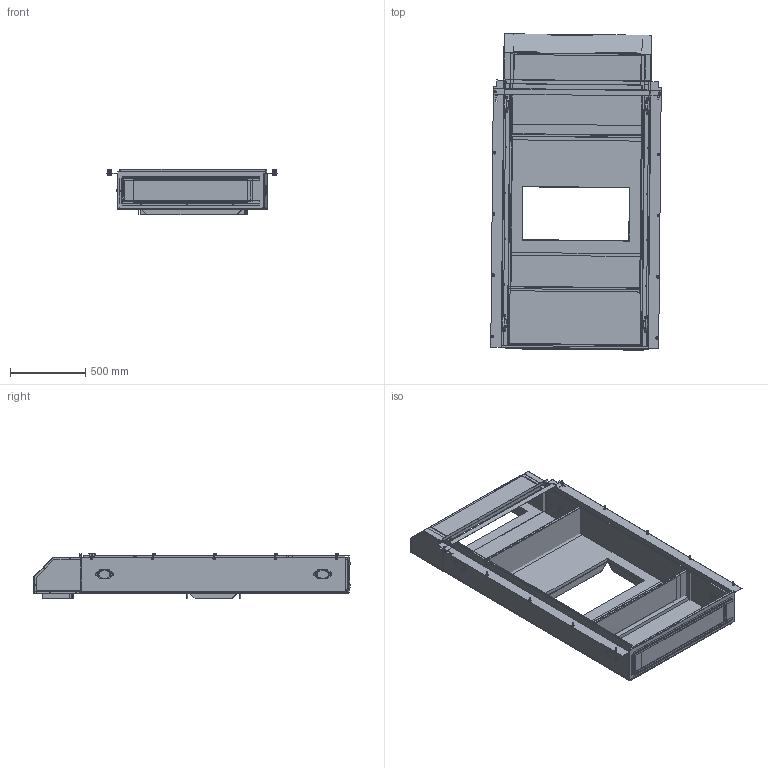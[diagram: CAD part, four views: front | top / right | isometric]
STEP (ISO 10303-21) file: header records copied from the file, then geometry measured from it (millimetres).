
FILE_DESCRIPTION (( 'STEP AP214' ), '1' );
FILE_NAME ('TFCT-53X.STEP', '2017-06-14T20:55:48', ( 'BMC' ), ( 'Bard Manufacturing Co., Inc.' ), 'SwSTEP 2.0', 'SolidWorks 2017', '' );
FILE_SCHEMA (( 'AUTOMOTIVE_DESIGN' ));
Length unit declared in the file: inch
Products named in the file (1): TFCT-53X
Bounding box: 1131.81 x 2100.35 x 301.35 mm (x, y, z)
Volume: 62713655.4 mm3; surface area: 17322259.7 mm2
Topology: 68 solids, 68 shells, 4947 faces, 12277 edges, 7414 vertices
Faces by surface type: plane 2078, bspline 1017, cylinder 914, cone 760, torus 162, sphere 16
Entity records: 267439 total; most frequent: CARTESIAN_POINT 91240, ORIENTED_EDGE 24074, DIRECTION 20793, EDGE_CURVE 12037, VERTEX_POINT 7414, AXIS2_PLACEMENT_3D 7029, VECTOR 6735, LINE 6735
